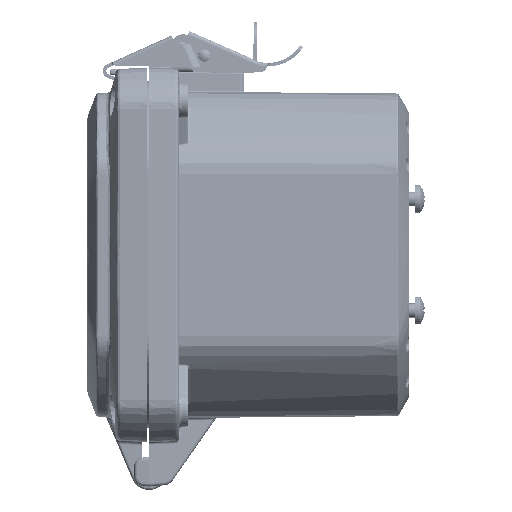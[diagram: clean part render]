
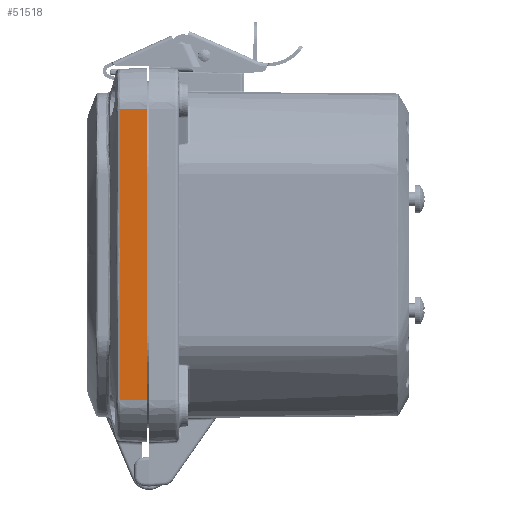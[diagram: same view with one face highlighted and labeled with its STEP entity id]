
A CAD part, left-side view. The second image highlights one B-rep face of the part: STEP entity #51518.
In plain terms, the highlighted planar face has unit normal (-0.999, 0.052, 0).
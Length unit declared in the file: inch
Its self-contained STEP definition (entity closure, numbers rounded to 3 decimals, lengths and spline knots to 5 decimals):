
#1155 = CARTESIAN_POINT ( 'NONE',  ( -3.50089, 0.36464, 1.87599 ) ) ;
#4902 = CARTESIAN_POINT ( 'NONE',  ( -3.50093, 0.36394, 1.95755 ) ) ;
#16483 = DIRECTION ( 'NONE',  ( 0., 0., 1. ) ) ;
#16518 = CARTESIAN_POINT ( 'NONE',  ( -3.50089, 0.36472, 1.91677 ) ) ;
#18445 = B_SPLINE_CURVE_WITH_KNOTS ( 'NONE', 3,
 ( #154855, #208564, #53797, #105442, #204239, #57035, #71379, #72467, #58117, #90004, #21912, #88913, #139479, #206396 ),
 .UNSPECIFIED., .F., .F.,
 ( 4, 2, 2, 1, 1, 2, 2, 4 ),
 ( 0., 0.02486, 0.03729, 0.04351, 0.04661, 0.04817, 0.04895, 0.04972 ),
 .UNSPECIFIED. ) ;
#21912 = CARTESIAN_POINT ( 'NONE',  ( -3.50089, 0.36472, -1.91677 ) ) ;
#32227 = EDGE_LOOP ( 'NONE', ( #51921, #167089, #73030, #72139, #155050 ) ) ;
#40286 = PLANE ( 'NONE',  #162489 ) ;
#45358 = EDGE_CURVE ( 'NONE', #155602, #50223, #141251, .T. ) ;
#48259 = EDGE_CURVE ( 'NONE', #82989, #88823, #48574, .T. ) ;
#48574 = LINE ( 'NONE', #174708, #116278 ) ;
#50223 = VERTEX_POINT ( 'NONE', #106223 ) ;
#51518 = ADVANCED_FACE ( 'NONE', ( #172125 ), #40286, .T. ) ;
#51921 = ORIENTED_EDGE ( 'NONE', *, *, #182531, .T. ) ;
#53111 = VECTOR ( 'NONE', #146373, 39.37008 ) ;
#53797 = CARTESIAN_POINT ( 'NONE',  ( -3.5009, 0.36447, -0.65251 ) ) ;
#54889 = CARTESIAN_POINT ( 'NONE',  ( -3.50089, 0.36462, 0.00001 ) ) ;
#57035 = CARTESIAN_POINT ( 'NONE',  ( -3.5009, 0.36448, -1.54973 ) ) ;
#58117 = CARTESIAN_POINT ( 'NONE',  ( -3.50089, 0.36464, -1.87599 ) ) ;
#63628 = CARTESIAN_POINT ( 'NONE',  ( -3.50093, 0.36394, -1.95755 ) ) ;
#65967 = CARTESIAN_POINT ( 'NONE',  ( -3.50089, 0.3646, 1.81482 ) ) ;
#67055 = CARTESIAN_POINT ( 'NONE',  ( -3.5009, 0.36447, 0.65252 ) ) ;
#71379 = CARTESIAN_POINT ( 'NONE',  ( -3.5009, 0.36452, -1.67208 ) ) ;
#72139 = ORIENTED_EDGE ( 'NONE', *, *, #80308, .T. ) ;
#72255 = CARTESIAN_POINT ( 'NONE',  ( -3.52, 0., 1.95755 ) ) ;
#72467 = CARTESIAN_POINT ( 'NONE',  ( -3.50089, 0.3646, -1.81482 ) ) ;
#73030 = ORIENTED_EDGE ( 'NONE', *, *, #45358, .T. ) ;
#80308 = EDGE_CURVE ( 'NONE', #50223, #88823, #209866, .T. ) ;
#82989 = VERTEX_POINT ( 'NONE', #4902 ) ;
#83545 = CARTESIAN_POINT ( 'NONE',  ( -3.5009, 0.36442, 1.30504 ) ) ;
#85603 = EDGE_CURVE ( 'NONE', #198248, #155602, #18445, .T. ) ;
#88823 = VERTEX_POINT ( 'NONE', #72255 ) ;
#88913 = CARTESIAN_POINT ( 'NONE',  ( -3.5009, 0.36451, -1.93716 ) ) ;
#90004 = CARTESIAN_POINT ( 'NONE',  ( -3.50089, 0.36467, -1.90658 ) ) ;
#97869 = CARTESIAN_POINT ( 'NONE',  ( -3.50091, 0.36428, 1.94736 ) ) ;
#105442 = CARTESIAN_POINT ( 'NONE',  ( -3.5009, 0.36442, -1.1419 ) ) ;
#106223 = CARTESIAN_POINT ( 'NONE',  ( -3.52, 0., -1.95755 ) ) ;
#114494 = CARTESIAN_POINT ( 'NONE',  ( -3.52, 0., -1.95755 ) ) ;
#116278 = VECTOR ( 'NONE', #125324, 39.37008 ) ;
#117568 = CARTESIAN_POINT ( 'NONE',  ( -3.50093, 0.36394, 1.95755 ) ) ;
#125324 = DIRECTION ( 'NONE',  ( -0.052, -0.999, 0. ) ) ;
#135157 = CARTESIAN_POINT ( 'NONE',  ( -3.5009, 0.36452, 1.67208 ) ) ;
#139479 = CARTESIAN_POINT ( 'NONE',  ( -3.50091, 0.36428, -1.94736 ) ) ;
#140298 = CARTESIAN_POINT ( 'NONE',  ( -3.52, 0., -1.95755 ) ) ;
#141251 = LINE ( 'NONE', #114494, #53111 ) ;
#143502 = B_SPLINE_CURVE_WITH_KNOTS ( 'NONE', 3,
 ( #117568, #97869, #149429, #16518, #216407, #1155, #65967, #135157, #202080, #83545, #150523, #67055, #184526, #54889 ),
 .UNSPECIFIED., .F., .F.,
 ( 4, 2, 2, 1, 1, 2, 2, 4 ),
 ( 0., 0.00078, 0.00155, 0.00311, 0.00622, 0.01243, 0.02486, 0.04972 ),
 .UNSPECIFIED. ) ;
#146373 = DIRECTION ( 'NONE',  ( -0.052, -0.999, 0. ) ) ;
#149429 = CARTESIAN_POINT ( 'NONE',  ( -3.5009, 0.36451, 1.93716 ) ) ;
#149493 = CARTESIAN_POINT ( 'NONE',  ( -3.50089, 0.36462, 0.00001 ) ) ;
#150523 = CARTESIAN_POINT ( 'NONE',  ( -3.5009, 0.36442, 1.14191 ) ) ;
#154855 = CARTESIAN_POINT ( 'NONE',  ( -3.50089, 0.36462, 0.00001 ) ) ;
#155050 = ORIENTED_EDGE ( 'NONE', *, *, #48259, .F. ) ;
#155602 = VERTEX_POINT ( 'NONE', #63628 ) ;
#162489 = AXIS2_PLACEMENT_3D ( 'NONE', #140298, #188618, #173180 ) ;
#167089 = ORIENTED_EDGE ( 'NONE', *, *, #85603, .T. ) ;
#170969 = VECTOR ( 'NONE', #16483, 39.37008 ) ;
#172125 = FACE_OUTER_BOUND ( 'NONE', #32227, .T. ) ;
#173180 = DIRECTION ( 'NONE',  ( -0.052, -0.999, 0. ) ) ;
#174708 = CARTESIAN_POINT ( 'NONE',  ( -3.52, 0., 1.95755 ) ) ;
#182320 = CARTESIAN_POINT ( 'NONE',  ( -3.52, 0., -1.95755 ) ) ;
#182531 = EDGE_CURVE ( 'NONE', #82989, #198248, #143502, .T. ) ;
#184526 = CARTESIAN_POINT ( 'NONE',  ( -3.50089, 0.36457, 0.32626 ) ) ;
#188618 = DIRECTION ( 'NONE',  ( -0.999, 0.052, 0. ) ) ;
#198248 = VERTEX_POINT ( 'NONE', #149493 ) ;
#202080 = CARTESIAN_POINT ( 'NONE',  ( -3.5009, 0.36448, 1.54973 ) ) ;
#204239 = CARTESIAN_POINT ( 'NONE',  ( -3.5009, 0.36442, -1.30503 ) ) ;
#206396 = CARTESIAN_POINT ( 'NONE',  ( -3.50093, 0.36394, -1.95755 ) ) ;
#208564 = CARTESIAN_POINT ( 'NONE',  ( -3.50089, 0.36457, -0.32625 ) ) ;
#209866 = LINE ( 'NONE', #182320, #170969 ) ;
#216407 = CARTESIAN_POINT ( 'NONE',  ( -3.50089, 0.36467, 1.90658 ) ) ;
